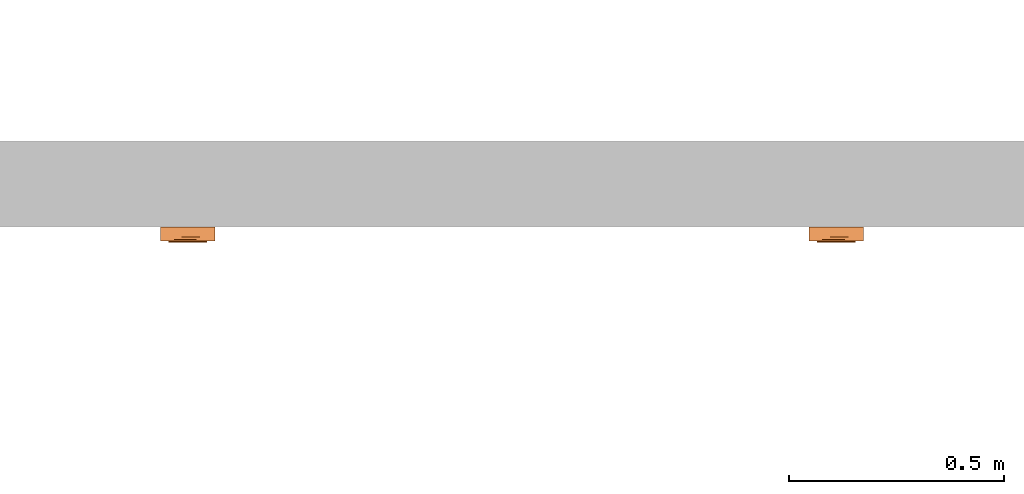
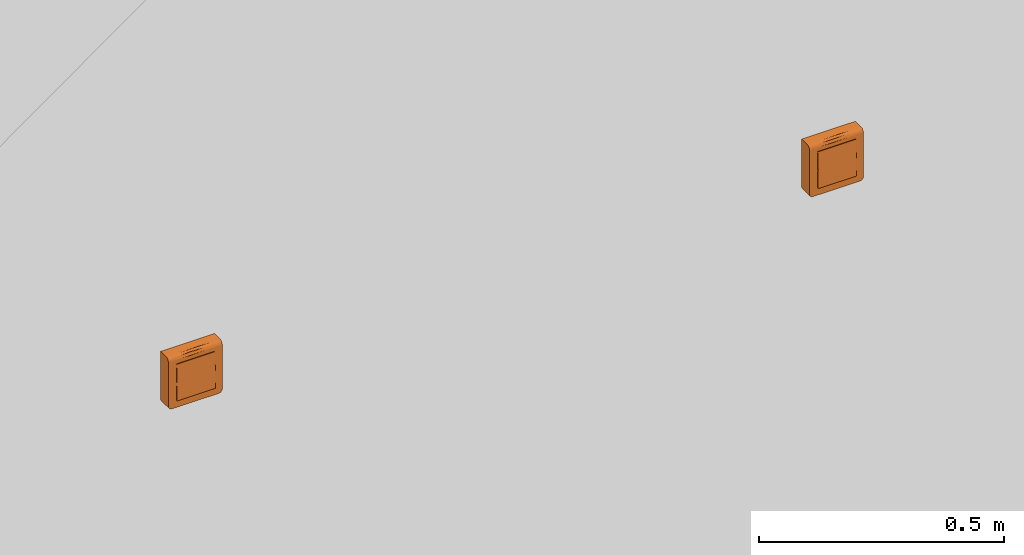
# One storey, part 170 of 197: 2 proxies.
"""IFC2X3 building model written with IfcOpenShell, lengths in metres."""

from ifc_helpers import new_model, entity, si_unit, converted_unit, direction, frame, origin, place, context, subcontext, project, spatial, faceted_brep, source, transform, mapped, material, material_list, type_object, type_shapes, element, save


model = new_model("IFC2X3")

# Units and contexts
model_context = context("Model", 3, precision=1e-05, world=origin(), true_north=direction((6.123031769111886e-17, 1.0)))
body_context = subcontext(model_context, "Body", "Model", "MODEL_VIEW")
ifc_project = project(units=[si_unit("LENGTHUNIT", "METRE"), converted_unit("PLANEANGLEUNIT", "DEGREE", entity("IfcPlaneAngleMeasure", 0.017453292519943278), si_unit("PLANEANGLEUNIT", "RADIAN"), dimensions=[0, 0, 0, 0, 0, 0, 0]), si_unit("AREAUNIT", "SQUARE_METRE")], contexts=[model_context])

# Site, building, storey
site_placement = place(None, origin())
site = spatial("IfcSite", under=ifc_project, at=site_placement, Name="Default", CompositionType="ELEMENT")
building_placement = place(site_placement, origin())
building = spatial("IfcBuilding", under=site, at=building_placement, CompositionType="ELEMENT")
storey_placement = place(building_placement, origin())
storey = spatial("IfcBuildingStorey", under=building, at=storey_placement, Name="Niveau 0", CompositionType="ELEMENT", Elevation=0.0)

# Proxies
ifc_material_1 = material(Name="BETCE-CADRE-BLANC")
ifc_material_2 = material(Name="BETCE-DOIGT-BLANC")
ifc_material_3 = material(Name="BETCE-ENJOLIVEUR-BLANC")
ifc_material_list = material_list([ifc_material_1, ifc_material_2, ifc_material_3])
building_element_proxy_type_1 = type_object("IfcBuildingElementProxyType", Name="Tableau commande 2x4 modules saillie:3 SA + 5 VV", PredefinedType="NOTDEFINED", material=ifc_material_list)
shared_shape_1 = source(origin(), body_context, "Body", "Brep", [
    faceted_brep([(0.06349999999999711, -0.022999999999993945, 0.0635), (-0.06350000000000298, -0.022999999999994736, 0.0635), (-0.06350000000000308, -0.022999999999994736, -0.055499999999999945), (-0.06322740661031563, -0.022999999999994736, -0.05757055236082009), (-0.06242820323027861, -0.02299999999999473, -0.059499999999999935), (-0.06115685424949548, -0.022999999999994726, -0.06115685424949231), (-0.05950000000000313, -0.022999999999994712, -0.06242820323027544), (-0.05757055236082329, -0.0229999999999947, -0.06322740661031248), (-0.05550000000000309, -0.022999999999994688, -0.06350000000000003), (0.055499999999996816, -0.022999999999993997, -0.0635000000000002), (0.057570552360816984, -0.022999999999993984, -0.06322740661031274), (0.05949999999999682, -0.022999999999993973, -0.062428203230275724), (0.06115685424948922, -0.022999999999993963, -0.061156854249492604), (0.062428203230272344, -0.022999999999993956, -0.05950000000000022), (0.0632274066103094, -0.022999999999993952, -0.0575705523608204), (0.06349999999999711, -0.022999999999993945, -0.05550000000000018), (-0.05550000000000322, 0.0, -0.06349999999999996), (-0.05757055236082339, 0.0, -0.06322740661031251), (-0.05950000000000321, 0.0, -0.062428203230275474), (-0.06115685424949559, 0.0, -0.06115685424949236), (-0.06242820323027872, 0.0, -0.05949999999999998), (-0.06322740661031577, 0.0, -0.05757055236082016), (-0.06350000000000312, 0.0, -0.055499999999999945), (-0.06350000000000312, 0.0, 0.0635), (0.06349999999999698, 0.0, 0.0635), (0.06349999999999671, 0.0, -0.05550000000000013), (0.06322740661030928, 0.0, -0.0575705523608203), (0.06242820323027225, 0.0, -0.05950000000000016), (0.06115685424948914, 0.0, -0.061156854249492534), (0.059499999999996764, 0.0, -0.062428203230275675), (0.05757055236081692, 0.0, -0.06322740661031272), (0.055499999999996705, 0.0, -0.0635)], [[[0, 1, 2, 3, 4, 5, 6, 7, 8, 9, 10, 11, 12, 13, 14, 15]], [[16, 17, 18, 19, 20, 21, 22, 23, 24, 25, 26, 27, 28, 29, 30, 31]], [[2, 1, 23, 22]], [[9, 8, 16, 31]], [[0, 15, 25, 24]], [[1, 0, 24, 23]], [[25, 15, 14, 26]], [[26, 14, 13, 27]], [[27, 13, 12, 28]], [[29, 11, 10, 30]], [[30, 10, 9, 31]], [[28, 12, 11, 29]], [[17, 16, 8, 7]], [[18, 17, 7, 6]], [[19, 18, 6, 5]], [[20, 19, 5, 4]], [[21, 20, 4, 3]], [[22, 21, 3, 2]]]),
    faceted_brep([(0.022499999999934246, -0.022999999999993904, -0.045000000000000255), (0.022499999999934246, -0.022999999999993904, 0.0), (0.04499999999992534, -0.022999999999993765, 0.0), (0.04499999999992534, -0.022999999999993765, -0.045000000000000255), (0.022499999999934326, -0.03574999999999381, -0.045000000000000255), (0.02249999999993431, -0.033499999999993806, 0.0), (0.044999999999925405, -0.03349999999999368, 0.0), (0.04499999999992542, -0.03574999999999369, -0.045000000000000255)], [[[0, 1, 2, 3]], [[1, 0, 4, 5]], [[2, 1, 5, 6]], [[3, 2, 6, 7]], [[0, 3, 7, 4]], [[5, 4, 7, 6]]]),
    faceted_brep([(0.0, -0.022999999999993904, -0.04500000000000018), (0.0, -0.022999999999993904, 0.0), (0.02249999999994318, -0.022999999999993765, 0.0), (0.02249999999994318, -0.022999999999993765, -0.04500000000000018), (0.0, -0.03574999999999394, -0.04500000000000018), (0.0, -0.03349999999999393, 0.0), (0.022499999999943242, -0.033499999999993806, 0.0), (0.02249999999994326, -0.03574999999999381, -0.04500000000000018)], [[[0, 1, 2, 3]], [[1, 0, 4, 5]], [[2, 1, 5, 6]], [[3, 2, 6, 7]], [[0, 3, 7, 4]], [[5, 4, 7, 6]]]),
    faceted_brep([(-0.02250000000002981, -0.022999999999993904, -0.0450000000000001), (-0.02250000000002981, -0.022999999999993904, 0.0), (0.0, -0.022999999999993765, 0.0), (0.0, -0.022999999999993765, -0.0450000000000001), (-0.02250000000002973, -0.03574999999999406, -0.0450000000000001), (-0.022500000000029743, -0.03349999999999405, 0.0), (0.0, -0.033499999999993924, 0.0), (0.0, -0.03574999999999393, -0.0450000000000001)], [[[0, 1, 2, 3]], [[1, 0, 4, 5]], [[2, 1, 5, 6]], [[3, 2, 6, 7]], [[0, 3, 7, 4]], [[5, 4, 7, 6]]]),
    faceted_brep([(-0.04500000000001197, -0.022999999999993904, -0.045000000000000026), (-0.04500000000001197, -0.022999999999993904, 0.0), (-0.022500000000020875, -0.022999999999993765, 0.0), (-0.022500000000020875, -0.022999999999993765, -0.045000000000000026), (-0.04500000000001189, -0.03574999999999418, -0.045000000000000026), (-0.0450000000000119, -0.03349999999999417, 0.0), (-0.02250000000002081, -0.03349999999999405, 0.0), (-0.022500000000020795, -0.03574999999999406, -0.045000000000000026)], [[[0, 1, 2, 3]], [[1, 0, 4, 5]], [[2, 1, 5, 6]], [[3, 2, 6, 7]], [[0, 3, 7, 4]], [[5, 4, 7, 6]]]),
    faceted_brep([(0.02249999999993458, -0.03349999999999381, 0.04499999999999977), (0.022499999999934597, -0.03574999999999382, 0.0), (0.04499999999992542, -0.0357499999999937, 0.0), (0.044999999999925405, -0.03349999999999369, 0.04499999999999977), (0.022499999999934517, -0.022999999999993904, 0.0), (0.022499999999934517, -0.022999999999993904, 0.04499999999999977), (0.04499999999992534, -0.022999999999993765, 0.04499999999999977), (0.04499999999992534, -0.022999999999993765, 0.0)], [[[0, 1, 2, 3]], [[4, 5, 6, 7]], [[5, 4, 1, 0]], [[6, 5, 0, 3]], [[7, 6, 3, 2]], [[4, 7, 2, 1]]]),
    faceted_brep([(0.0, -0.03349999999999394, 0.044999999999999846), (0.0, -0.035749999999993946, 0.0), (0.02249999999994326, -0.03574999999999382, 0.0), (0.022499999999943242, -0.03349999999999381, 0.044999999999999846), (0.0, -0.022999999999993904, 0.0), (0.0, -0.022999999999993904, 0.044999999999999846), (0.02249999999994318, -0.022999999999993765, 0.04499999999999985), (0.02249999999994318, -0.022999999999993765, 0.0)], [[[0, 1, 2, 3]], [[4, 5, 6, 7]], [[5, 4, 1, 0]], [[6, 5, 0, 3]], [[7, 6, 3, 2]], [[4, 7, 2, 1]]]),
    faceted_brep([(-0.022500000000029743, -0.03349999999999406, 0.04499999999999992), (-0.02250000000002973, -0.03574999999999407, 0.0), (0.0, -0.03574999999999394, 0.0), (0.0, -0.03349999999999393, 0.04499999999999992), (-0.02250000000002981, -0.022999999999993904, 0.0), (-0.02250000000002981, -0.022999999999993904, 0.04499999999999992), (0.0, -0.022999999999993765, 0.04499999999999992), (0.0, -0.022999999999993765, 0.0)], [[[0, 1, 2, 3]], [[4, 5, 6, 7]], [[5, 4, 1, 0]], [[6, 5, 0, 3]], [[7, 6, 3, 2]], [[4, 7, 2, 1]]]),
    faceted_brep([(-0.04500000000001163, -0.03349999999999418, 0.045), (-0.045000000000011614, -0.03574999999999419, 0.0), (-0.022500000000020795, -0.035749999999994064, 0.0), (-0.02250000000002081, -0.03349999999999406, 0.045), (-0.0450000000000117, -0.022999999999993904, 0.0), (-0.0450000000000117, -0.022999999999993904, 0.045), (-0.022500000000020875, -0.022999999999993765, 0.045000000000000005), (-0.022500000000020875, -0.022999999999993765, 0.0)], [[[0, 1, 2, 3]], [[4, 5, 6, 7]], [[5, 4, 1, 0]], [[6, 5, 0, 3]], [[7, 6, 3, 2]], [[4, 7, 2, 1]]]),
    faceted_brep([(0.06349999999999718, -0.03199999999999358, -0.055500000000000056), (0.063499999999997, -0.03199999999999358, 0.05450000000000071), (0.04499999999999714, -0.03199999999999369, -0.045000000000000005), (0.05549999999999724, -0.03199999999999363, -0.06350000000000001), (0.057570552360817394, -0.03199999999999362, -0.06322740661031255), (0.06322740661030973, -0.03199999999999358, -0.05757055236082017), (0.04499999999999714, -0.03199999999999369, 0.045), (-0.04500000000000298, -0.031999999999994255, 0.045000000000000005), (-0.011124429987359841, -0.03199999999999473, 0.054500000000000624), (-0.06350000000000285, -0.03199999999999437, 0.05450000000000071), (-0.04500000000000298, -0.031999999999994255, -0.045000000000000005), (-0.06350000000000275, -0.03199999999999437, -0.05550000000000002), (-0.05550000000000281, -0.03199999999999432, -0.06350000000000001), (-0.05757055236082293, -0.03199999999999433, -0.06322740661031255), (-0.06322740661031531, -0.031999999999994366, -0.05757055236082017), (-0.05950000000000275, -0.031999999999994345, -0.062428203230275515), (-0.06242820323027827, -0.03199999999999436, -0.05950000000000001), (-0.06115685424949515, -0.03199999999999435, -0.06115685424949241), (0.05949999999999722, -0.0319999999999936, -0.062428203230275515), (0.062428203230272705, -0.03199999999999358, -0.05949999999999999), (0.06115685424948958, -0.031999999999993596, -0.061156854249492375), (-0.06350000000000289, -0.02299999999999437, -0.05550000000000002), (-0.06350000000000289, -0.02299999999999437, 0.06350000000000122), (-0.04500000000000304, -0.02299999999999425, 0.045000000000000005), (-0.04500000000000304, -0.02299999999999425, -0.045000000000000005), (-0.05550000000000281, -0.02299999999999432, -0.06350000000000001), (-0.06322740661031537, -0.022999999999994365, -0.05757055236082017), (0.04499999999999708, -0.022999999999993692, 0.045000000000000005), (0.011124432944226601, -0.022999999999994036, 0.06350000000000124), (0.06349999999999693, -0.022999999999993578, 0.0635), (0.06349999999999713, -0.022999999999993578, -0.05550000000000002), (0.04499999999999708, -0.022999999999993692, -0.045000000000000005), (0.05549999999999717, -0.02299999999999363, -0.06350000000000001), (0.06322740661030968, -0.022999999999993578, -0.05757055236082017), (0.05757055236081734, -0.022999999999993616, -0.06322740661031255), (0.06242820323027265, -0.022999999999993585, -0.05949999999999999), (0.05949999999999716, -0.022999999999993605, -0.062428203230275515), (0.06115685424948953, -0.02299999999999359, -0.061156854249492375), (-0.05757055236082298, -0.02299999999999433, -0.06322740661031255), (-0.062428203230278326, -0.022999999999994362, -0.05950000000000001), (-0.05950000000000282, -0.022999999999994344, -0.062428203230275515), (-0.0611568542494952, -0.02299999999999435, -0.06115685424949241), (0.06349999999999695, -0.025329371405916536, 0.06319333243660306), (0.06349999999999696, -0.02749999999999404, 0.06229422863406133), (0.06349999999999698, -0.029363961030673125, 0.060863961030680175), (0.06349999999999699, -0.03079422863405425, 0.05900000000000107), (0.06349999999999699, -0.03169333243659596, 0.05682937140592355), (-0.06350000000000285, -0.03169333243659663, 0.0568293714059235), (-0.06350000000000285, -0.030794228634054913, 0.059000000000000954), (-0.06350000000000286, -0.029363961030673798, 0.06086396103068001), (-0.06350000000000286, -0.027499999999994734, 0.062294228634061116), (-0.06350000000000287, -0.025329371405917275, 0.06319333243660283), (-0.010857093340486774, -0.029120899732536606, 0.06109807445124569)], [[[0, 1, 2]], [[3, 0, 2]], [[0, 3, 4]], [[5, 0, 4]], [[2, 1, 6]], [[1, 7, 6]], [[7, 1, 8]], [[7, 8, 9]], [[10, 7, 9]], [[11, 10, 9]], [[12, 10, 11]], [[12, 11, 13]], [[13, 11, 14]], [[15, 13, 14]], [[16, 15, 14]], [[15, 16, 17]], [[10, 12, 3]], [[2, 10, 3]], [[5, 4, 18]], [[5, 18, 19]], [[20, 19, 18]], [[21, 22, 23]], [[24, 21, 23]], [[25, 21, 24]], [[26, 21, 25]], [[22, 27, 23]], [[27, 22, 28]], [[27, 28, 29]], [[30, 27, 29]], [[31, 27, 30]], [[32, 31, 30]], [[32, 30, 33]], [[32, 33, 34]], [[33, 35, 34]], [[35, 36, 34]], [[36, 35, 37]], [[31, 32, 25]], [[26, 25, 38]], [[24, 31, 25]], [[39, 26, 38]], [[39, 38, 40]], [[41, 39, 40]], [[1, 0, 30, 29, 42, 43, 44, 45, 46]], [[33, 30, 0, 5]], [[35, 33, 5, 19]], [[37, 35, 19, 20]], [[36, 37, 20, 18]], [[34, 36, 18, 4]], [[32, 34, 4, 3]], [[25, 32, 3, 12]], [[38, 25, 12, 13]], [[40, 38, 13, 15]], [[41, 40, 15, 17]], [[39, 41, 17, 16]], [[26, 39, 16, 14]], [[21, 26, 14, 11]], [[22, 21, 11, 9, 47, 48, 49, 50, 51]], [[24, 23, 7, 10]], [[31, 24, 10, 2]], [[27, 31, 2, 6]], [[23, 27, 6, 7]], [[52, 8, 45]], [[47, 9, 8]], [[1, 46, 8]], [[44, 52, 45]], [[46, 45, 8]], [[50, 52, 51]], [[48, 47, 8]], [[28, 52, 43]], [[48, 52, 49]], [[42, 29, 28]], [[28, 22, 51]], [[48, 8, 52]], [[28, 43, 42]], [[44, 43, 52]], [[52, 50, 49]], [[52, 28, 51]]]),
])
type_shapes(building_element_proxy_type_1, [shared_shape_1])
proxy_1_placement = place(storey_placement, frame((-342.41977966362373, 116.01635778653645, 1.1)))
element("IfcBuildingElementProxy", 1, at=proxy_1_placement, inside=storey, type_object=building_element_proxy_type_1, material=ifc_material_list, Name="Tableau commande 2x4 modules saillie:3 SA + 5 VV", ObjectType="Tableau commande 2x4 modules saillie:3 SA + 5 VV", context=body_context, shape_type="MappedRepresentation", body=[
    mapped(shared_shape_1, transform((0.0, 0.0, 0.0), scale=1.0)),
])
building_element_proxy_type_2 = type_object("IfcBuildingElementProxyType", Name="Tableau commande 2x4 modules saillie:4 SA + 4 VV", PredefinedType="NOTDEFINED", material=ifc_material_list)
shared_shape_2 = source(origin(), body_context, "Body", "Brep", [
    faceted_brep([(0.06349999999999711, -0.022999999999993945, 0.0635), (-0.06350000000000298, -0.022999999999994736, 0.0635), (-0.06350000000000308, -0.022999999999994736, -0.055499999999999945), (-0.06322740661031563, -0.022999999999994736, -0.05757055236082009), (-0.06242820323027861, -0.02299999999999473, -0.059499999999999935), (-0.06115685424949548, -0.022999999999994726, -0.06115685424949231), (-0.05950000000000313, -0.022999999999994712, -0.06242820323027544), (-0.05757055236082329, -0.0229999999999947, -0.06322740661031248), (-0.05550000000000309, -0.022999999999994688, -0.06350000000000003), (0.055499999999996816, -0.022999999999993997, -0.0635000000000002), (0.057570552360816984, -0.022999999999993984, -0.06322740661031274), (0.05949999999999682, -0.022999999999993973, -0.062428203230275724), (0.06115685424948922, -0.022999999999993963, -0.061156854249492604), (0.062428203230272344, -0.022999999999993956, -0.05950000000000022), (0.0632274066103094, -0.022999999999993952, -0.0575705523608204), (0.06349999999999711, -0.022999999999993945, -0.05550000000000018), (-0.05550000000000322, 0.0, -0.06349999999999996), (-0.05757055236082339, 0.0, -0.06322740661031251), (-0.05950000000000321, 0.0, -0.062428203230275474), (-0.06115685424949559, 0.0, -0.06115685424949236), (-0.06242820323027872, 0.0, -0.05949999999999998), (-0.06322740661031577, 0.0, -0.05757055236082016), (-0.06350000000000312, 0.0, -0.055499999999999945), (-0.06350000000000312, 0.0, 0.0635), (0.06349999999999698, 0.0, 0.0635), (0.06349999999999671, 0.0, -0.05550000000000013), (0.06322740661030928, 0.0, -0.0575705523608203), (0.06242820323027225, 0.0, -0.05950000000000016), (0.06115685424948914, 0.0, -0.061156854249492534), (0.059499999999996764, 0.0, -0.062428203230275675), (0.05757055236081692, 0.0, -0.06322740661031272), (0.055499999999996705, 0.0, -0.0635)], [[[0, 1, 2, 3, 4, 5, 6, 7, 8, 9, 10, 11, 12, 13, 14, 15]], [[16, 17, 18, 19, 20, 21, 22, 23, 24, 25, 26, 27, 28, 29, 30, 31]], [[2, 1, 23, 22]], [[9, 8, 16, 31]], [[0, 15, 25, 24]], [[1, 0, 24, 23]], [[25, 15, 14, 26]], [[26, 14, 13, 27]], [[27, 13, 12, 28]], [[29, 11, 10, 30]], [[30, 10, 9, 31]], [[28, 12, 11, 29]], [[17, 16, 8, 7]], [[18, 17, 7, 6]], [[19, 18, 6, 5]], [[20, 19, 5, 4]], [[21, 20, 4, 3]], [[22, 21, 3, 2]]]),
    faceted_brep([(0.022499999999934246, -0.022999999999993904, -0.045000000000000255), (0.022499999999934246, -0.022999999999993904, 0.0), (0.04499999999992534, -0.022999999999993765, 0.0), (0.04499999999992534, -0.022999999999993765, -0.045000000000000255), (0.022499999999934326, -0.03574999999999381, -0.045000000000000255), (0.02249999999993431, -0.033499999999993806, 0.0), (0.044999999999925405, -0.03349999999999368, 0.0), (0.04499999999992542, -0.03574999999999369, -0.045000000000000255)], [[[0, 1, 2, 3]], [[1, 0, 4, 5]], [[2, 1, 5, 6]], [[3, 2, 6, 7]], [[0, 3, 7, 4]], [[5, 4, 7, 6]]]),
    faceted_brep([(0.0, -0.022999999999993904, -0.04500000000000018), (0.0, -0.022999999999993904, 0.0), (0.02249999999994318, -0.022999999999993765, 0.0), (0.02249999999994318, -0.022999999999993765, -0.04500000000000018), (0.0, -0.03574999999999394, -0.04500000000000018), (0.0, -0.03349999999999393, 0.0), (0.022499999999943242, -0.033499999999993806, 0.0), (0.02249999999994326, -0.03574999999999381, -0.04500000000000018)], [[[0, 1, 2, 3]], [[1, 0, 4, 5]], [[2, 1, 5, 6]], [[3, 2, 6, 7]], [[0, 3, 7, 4]], [[5, 4, 7, 6]]]),
    faceted_brep([(-0.02250000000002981, -0.022999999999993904, -0.0450000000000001), (-0.02250000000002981, -0.022999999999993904, 0.0), (0.0, -0.022999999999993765, 0.0), (0.0, -0.022999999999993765, -0.0450000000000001), (-0.02250000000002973, -0.03574999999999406, -0.0450000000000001), (-0.022500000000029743, -0.03349999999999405, 0.0), (0.0, -0.033499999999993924, 0.0), (0.0, -0.03574999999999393, -0.0450000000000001)], [[[0, 1, 2, 3]], [[1, 0, 4, 5]], [[2, 1, 5, 6]], [[3, 2, 6, 7]], [[0, 3, 7, 4]], [[5, 4, 7, 6]]]),
    faceted_brep([(-0.04500000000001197, -0.022999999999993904, -0.045000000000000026), (-0.04500000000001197, -0.022999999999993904, 0.0), (-0.022500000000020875, -0.022999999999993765, 0.0), (-0.022500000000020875, -0.022999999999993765, -0.045000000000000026), (-0.04500000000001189, -0.03574999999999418, -0.045000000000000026), (-0.0450000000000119, -0.03349999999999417, 0.0), (-0.02250000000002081, -0.03349999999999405, 0.0), (-0.022500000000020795, -0.03574999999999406, -0.045000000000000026)], [[[0, 1, 2, 3]], [[1, 0, 4, 5]], [[2, 1, 5, 6]], [[3, 2, 6, 7]], [[0, 3, 7, 4]], [[5, 4, 7, 6]]]),
    faceted_brep([(0.02249999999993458, -0.03349999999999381, 0.04499999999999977), (0.022499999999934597, -0.03574999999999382, 0.0), (0.04499999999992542, -0.0357499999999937, 0.0), (0.044999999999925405, -0.03349999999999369, 0.04499999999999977), (0.022499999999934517, -0.022999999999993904, 0.0), (0.022499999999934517, -0.022999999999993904, 0.04499999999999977), (0.04499999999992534, -0.022999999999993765, 0.04499999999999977), (0.04499999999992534, -0.022999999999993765, 0.0)], [[[0, 1, 2, 3]], [[4, 5, 6, 7]], [[5, 4, 1, 0]], [[6, 5, 0, 3]], [[7, 6, 3, 2]], [[4, 7, 2, 1]]]),
    faceted_brep([(0.0, -0.03349999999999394, 0.044999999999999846), (0.0, -0.035749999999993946, 0.0), (0.02249999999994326, -0.03574999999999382, 0.0), (0.022499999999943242, -0.03349999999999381, 0.044999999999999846), (0.0, -0.022999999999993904, 0.0), (0.0, -0.022999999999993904, 0.044999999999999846), (0.02249999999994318, -0.022999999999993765, 0.04499999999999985), (0.02249999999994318, -0.022999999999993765, 0.0)], [[[0, 1, 2, 3]], [[4, 5, 6, 7]], [[5, 4, 1, 0]], [[6, 5, 0, 3]], [[7, 6, 3, 2]], [[4, 7, 2, 1]]]),
    faceted_brep([(-0.022500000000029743, -0.03349999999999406, 0.04499999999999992), (-0.02250000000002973, -0.03574999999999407, 0.0), (0.0, -0.03574999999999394, 0.0), (0.0, -0.03349999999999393, 0.04499999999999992), (-0.02250000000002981, -0.022999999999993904, 0.0), (-0.02250000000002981, -0.022999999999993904, 0.04499999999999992), (0.0, -0.022999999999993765, 0.04499999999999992), (0.0, -0.022999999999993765, 0.0)], [[[0, 1, 2, 3]], [[4, 5, 6, 7]], [[5, 4, 1, 0]], [[6, 5, 0, 3]], [[7, 6, 3, 2]], [[4, 7, 2, 1]]]),
    faceted_brep([(-0.04500000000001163, -0.03349999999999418, 0.045), (-0.045000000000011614, -0.03574999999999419, 0.0), (-0.022500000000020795, -0.035749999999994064, 0.0), (-0.02250000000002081, -0.03349999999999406, 0.045), (-0.0450000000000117, -0.022999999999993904, 0.0), (-0.0450000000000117, -0.022999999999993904, 0.045), (-0.022500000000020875, -0.022999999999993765, 0.045000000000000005), (-0.022500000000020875, -0.022999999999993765, 0.0)], [[[0, 1, 2, 3]], [[4, 5, 6, 7]], [[5, 4, 1, 0]], [[6, 5, 0, 3]], [[7, 6, 3, 2]], [[4, 7, 2, 1]]]),
    faceted_brep([(0.06349999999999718, -0.03199999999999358, -0.055500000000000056), (0.063499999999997, -0.03199999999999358, 0.05450000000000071), (0.04499999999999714, -0.03199999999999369, -0.045000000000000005), (0.05549999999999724, -0.03199999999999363, -0.06350000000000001), (0.057570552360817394, -0.03199999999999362, -0.06322740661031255), (0.06322740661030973, -0.03199999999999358, -0.05757055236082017), (0.04499999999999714, -0.03199999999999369, 0.045), (-0.04500000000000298, -0.031999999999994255, 0.045000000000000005), (-0.011124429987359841, -0.03199999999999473, 0.054500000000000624), (-0.06350000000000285, -0.03199999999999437, 0.05450000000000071), (-0.04500000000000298, -0.031999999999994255, -0.045000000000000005), (-0.06350000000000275, -0.03199999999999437, -0.05550000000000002), (-0.05550000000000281, -0.03199999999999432, -0.06350000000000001), (-0.05757055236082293, -0.03199999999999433, -0.06322740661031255), (-0.06322740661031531, -0.031999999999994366, -0.05757055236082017), (-0.05950000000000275, -0.031999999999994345, -0.062428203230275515), (-0.06242820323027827, -0.03199999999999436, -0.05950000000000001), (-0.06115685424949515, -0.03199999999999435, -0.06115685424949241), (0.05949999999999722, -0.0319999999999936, -0.062428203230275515), (0.062428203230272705, -0.03199999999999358, -0.05949999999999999), (0.06115685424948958, -0.031999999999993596, -0.061156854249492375), (-0.06350000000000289, -0.02299999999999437, -0.05550000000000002), (-0.06350000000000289, -0.02299999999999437, 0.06350000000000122), (-0.04500000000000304, -0.02299999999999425, 0.045000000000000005), (-0.04500000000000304, -0.02299999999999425, -0.045000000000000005), (-0.05550000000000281, -0.02299999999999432, -0.06350000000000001), (-0.06322740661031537, -0.022999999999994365, -0.05757055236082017), (0.04499999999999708, -0.022999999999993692, 0.045000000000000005), (0.011124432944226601, -0.022999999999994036, 0.06350000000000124), (0.06349999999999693, -0.022999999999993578, 0.0635), (0.06349999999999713, -0.022999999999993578, -0.05550000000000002), (0.04499999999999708, -0.022999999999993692, -0.045000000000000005), (0.05549999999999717, -0.02299999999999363, -0.06350000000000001), (0.06322740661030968, -0.022999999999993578, -0.05757055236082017), (0.05757055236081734, -0.022999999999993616, -0.06322740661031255), (0.06242820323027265, -0.022999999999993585, -0.05949999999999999), (0.05949999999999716, -0.022999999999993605, -0.062428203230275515), (0.06115685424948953, -0.02299999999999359, -0.061156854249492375), (-0.05757055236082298, -0.02299999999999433, -0.06322740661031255), (-0.062428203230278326, -0.022999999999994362, -0.05950000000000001), (-0.05950000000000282, -0.022999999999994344, -0.062428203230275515), (-0.0611568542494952, -0.02299999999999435, -0.06115685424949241), (0.06349999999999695, -0.025329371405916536, 0.06319333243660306), (0.06349999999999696, -0.02749999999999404, 0.06229422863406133), (0.06349999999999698, -0.029363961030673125, 0.060863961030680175), (0.06349999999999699, -0.03079422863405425, 0.05900000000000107), (0.06349999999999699, -0.03169333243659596, 0.05682937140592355), (-0.06350000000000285, -0.03169333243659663, 0.0568293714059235), (-0.06350000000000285, -0.030794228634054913, 0.059000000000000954), (-0.06350000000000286, -0.029363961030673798, 0.06086396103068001), (-0.06350000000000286, -0.027499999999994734, 0.062294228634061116), (-0.06350000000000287, -0.025329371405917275, 0.06319333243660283), (-0.010857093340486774, -0.029120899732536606, 0.06109807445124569)], [[[0, 1, 2]], [[3, 0, 2]], [[0, 3, 4]], [[5, 0, 4]], [[2, 1, 6]], [[1, 7, 6]], [[7, 1, 8]], [[7, 8, 9]], [[10, 7, 9]], [[11, 10, 9]], [[12, 10, 11]], [[12, 11, 13]], [[13, 11, 14]], [[15, 13, 14]], [[16, 15, 14]], [[15, 16, 17]], [[10, 12, 3]], [[2, 10, 3]], [[5, 4, 18]], [[5, 18, 19]], [[20, 19, 18]], [[21, 22, 23]], [[24, 21, 23]], [[25, 21, 24]], [[26, 21, 25]], [[22, 27, 23]], [[27, 22, 28]], [[27, 28, 29]], [[30, 27, 29]], [[31, 27, 30]], [[32, 31, 30]], [[32, 30, 33]], [[32, 33, 34]], [[33, 35, 34]], [[35, 36, 34]], [[36, 35, 37]], [[31, 32, 25]], [[26, 25, 38]], [[24, 31, 25]], [[39, 26, 38]], [[39, 38, 40]], [[41, 39, 40]], [[1, 0, 30, 29, 42, 43, 44, 45, 46]], [[33, 30, 0, 5]], [[35, 33, 5, 19]], [[37, 35, 19, 20]], [[36, 37, 20, 18]], [[34, 36, 18, 4]], [[32, 34, 4, 3]], [[25, 32, 3, 12]], [[38, 25, 12, 13]], [[40, 38, 13, 15]], [[41, 40, 15, 17]], [[39, 41, 17, 16]], [[26, 39, 16, 14]], [[21, 26, 14, 11]], [[22, 21, 11, 9, 47, 48, 49, 50, 51]], [[24, 23, 7, 10]], [[31, 24, 10, 2]], [[27, 31, 2, 6]], [[23, 27, 6, 7]], [[52, 8, 45]], [[47, 9, 8]], [[1, 46, 8]], [[44, 52, 45]], [[46, 45, 8]], [[50, 52, 51]], [[48, 47, 8]], [[28, 52, 43]], [[48, 52, 49]], [[42, 29, 28]], [[28, 22, 51]], [[48, 8, 52]], [[28, 43, 42]], [[44, 43, 52]], [[52, 50, 49]], [[52, 28, 51]]]),
])
type_shapes(building_element_proxy_type_2, [shared_shape_2])
proxy_2_placement = place(storey_placement, frame((-340.91002034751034, 116.01635778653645, 1.1)))
element("IfcBuildingElementProxy", 2, at=proxy_2_placement, inside=storey, type_object=building_element_proxy_type_2, material=ifc_material_list, Name="Tableau commande 2x4 modules saillie:4 SA + 4 VV", ObjectType="Tableau commande 2x4 modules saillie:4 SA + 4 VV", context=body_context, shape_type="MappedRepresentation", body=[
    mapped(shared_shape_2, transform((0.0, 0.0, 0.0), scale=1.0)),
])

save(model, "model.ifc")
